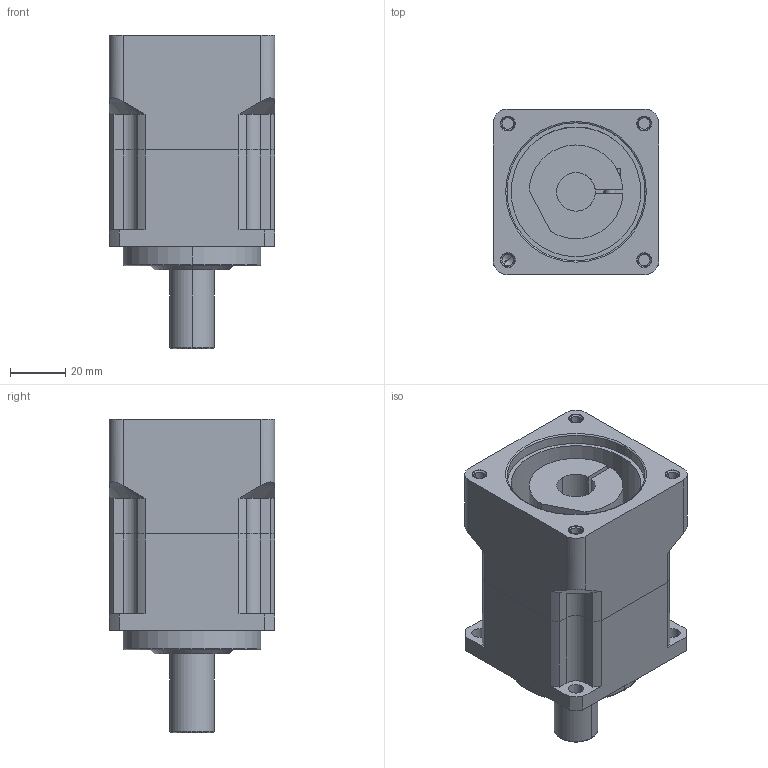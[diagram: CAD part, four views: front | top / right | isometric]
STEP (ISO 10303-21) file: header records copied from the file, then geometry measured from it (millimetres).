
FILE_DESCRIPTION((''),'2;1');
FILE_NAME('AB0601-P4020102_ASM','2005-07-20T',('jacky'),(''),'PRO/ENGINEER BY PARAMETRIC TECHNOLOGY CORPORATION, 2001280','PRO/ENGINEER BY PARAMETRIC TECHNOLOGY CORPORATION, 2001280','');
FILE_SCHEMA(('CONFIG_CONTROL_DESIGN'));
Length unit declared in the file: millimetre
Products named in the file (3): AB0601; P4020102; AB0601-P4020102_ASM
Assembly tree (2 placements, depth 2):
  AB0601-P4020102_ASM
    AB0601
    P4020102
Bounding box: 60 x 60 x 113.5 mm (x, y, z)
Volume: 215178.7 mm3; surface area: 43556.1 mm2
Topology: 2 solids, 6 shells, 160 faces, 409 edges, 267 vertices
Faces by surface type: cylinder 75, plane 63, cone 16, torus 6
Entity records: 5078 total; most frequent: CARTESIAN_POINT 933, DIRECTION 915, ORIENTED_EDGE 798, EDGE_CURVE 407, AXIS2_PLACEMENT_3D 354, VERTEX_POINT 267, VECTOR 207, LINE 207
